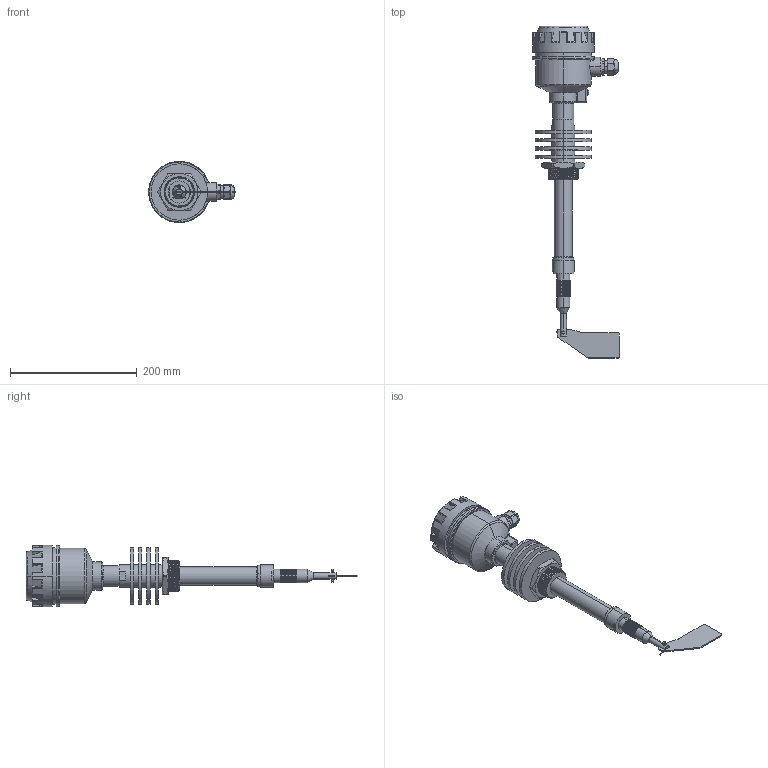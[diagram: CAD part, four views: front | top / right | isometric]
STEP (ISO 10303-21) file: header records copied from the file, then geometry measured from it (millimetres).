
FILE_DESCRIPTION (( 'STEP AP214' ), '1' );
FILE_NAME ('IL-SAA-N-HT600 ìóôòîâàÿ ëîïàñòü - ð.STEP', '2020-12-24T11:48:22', ( '' ), ( '' ), 'SwSTEP 2.0', 'SolidWorks 2020', '' );
FILE_SCHEMA (( 'AUTOMOTIVE_DESIGN' ));
Length unit declared in the file: millimetre
Products named in the file (8): Êðûøêà; Ëîïàñòü; Êîðïóñ-ð; Øïèëüêà; Ãîôðà; 扻錝僝鍧; 幄鼭歑; IL-SAA-N-HT600 ìóôòîâàÿ ëîïàñòü - ð
Assembly tree (7 placements, depth 2):
  IL-SAA-N-HT600 ìóôòîâàÿ ëîïàñòü - ð
    Êîðïóñ-ð
    扻錝僝鍧
    Êðûøêà
    Øïèëüêà
    幄鼭歑
    Ëîïàñòü
    Ãîôðà
Bounding box: 137 x 524.7 x 97 mm (x, y, z)
Volume: 887872.9 mm3; surface area: 173462.4 mm2
Topology: 7 solids, 7 shells, 615 faces, 1435 edges, 862 vertices
Faces by surface type: cylinder 250, plane 157, torus 128, sphere 34, bspline 23, cone 23
Entity records: 26752 total; most frequent: CARTESIAN_POINT 12491, DIRECTION 3131, ORIENTED_EDGE 2822, EDGE_CURVE 1411, AXIS2_PLACEMENT_3D 1343, VERTEX_POINT 854, CIRCLE 741, EDGE_LOOP 667
